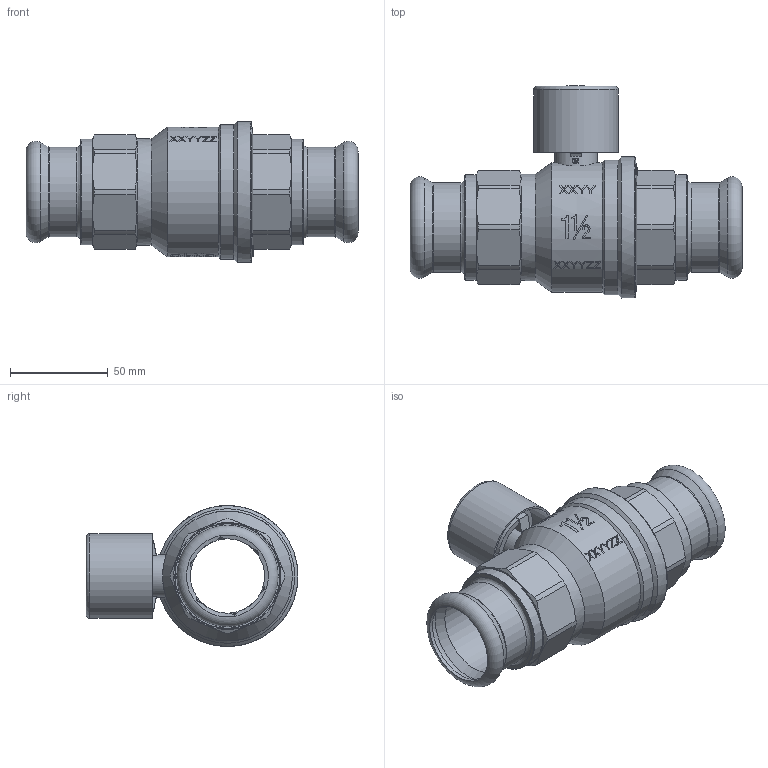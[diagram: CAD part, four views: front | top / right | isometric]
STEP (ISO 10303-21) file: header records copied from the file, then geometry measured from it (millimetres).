
FILE_DESCRIPTION((''),'2;1');
FILE_NAME('P:\Fastrack\53972_CRANE 3D\Press Fit\D171A\Lockshield\42MM\D171AEXS-PF-42MM.stp','2011-11-22T09:08:52',('dcole'),(''),'Autodesk Inventor 2008','Autodesk Inventor 2008','');
FILE_SCHEMA(('AUTOMOTIVE_DESIGN { 1 0 10303 214 1 1 1 1 }'));
Length unit declared in the file: millimetre
Products named in the file (1): D171AEXS-PF-42MM
Bounding box: 170.2 x 108.66 x 72.3 mm (x, y, z)
Volume: 232453.9 mm3; surface area: 83766.1 mm2
Topology: 1 solids, 1 shells, 896 faces, 2447 edges, 1622 vertices
Faces by surface type: plane 464, bspline 236, cylinder 111, cone 77, torus 8
Full cylindrical faces by diameter (mm): 3 x1, 12 x2, 12.1 x2, 12.5 x1, 16 x1, 16.3 x1, 16.5 x2, 22 x1, 28.2 x1, 30 x2, 36 x2, 39.5 x3, 39.7 x2, 41.4 x1, 42 x4, 43.4 x1, 44.845 x1, 44.854 x1, 46 x2, 54 x2, 54.5 x1, 66.6 x1, 69 x1, 72.3 x1
Entity records: 57880 total; most frequent: CARTESIAN_POINT 36836, ORIENTED_EDGE 4660, DIRECTION 3521, EDGE_CURVE 2330, VERTEX_POINT 1590, VECTOR 1247, LINE 1247, AXIS2_PLACEMENT_3D 1137
